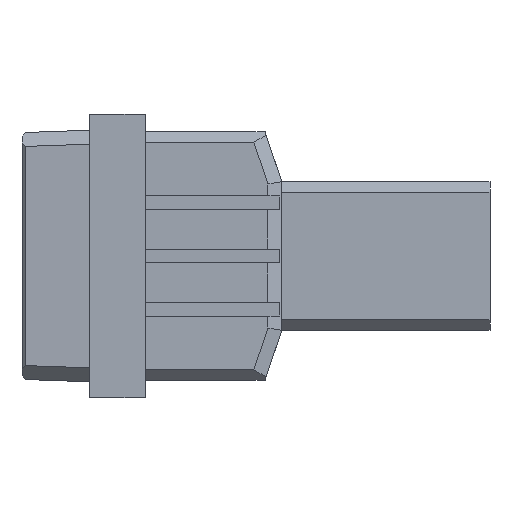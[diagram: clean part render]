
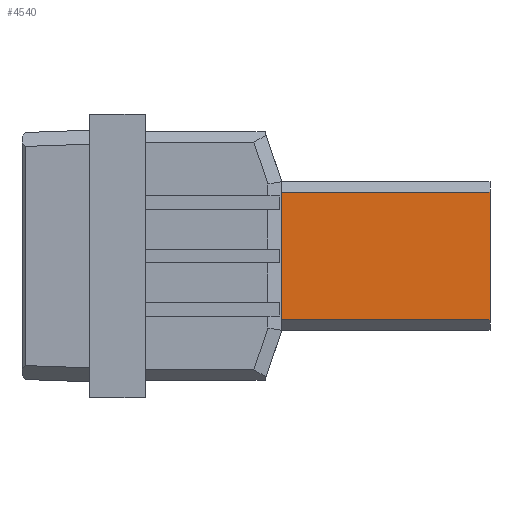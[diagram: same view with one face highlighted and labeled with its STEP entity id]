
A CAD part, left-side view. The second image highlights one B-rep face of the part: STEP entity #4540.
In plain terms, the highlighted planar face has unit normal (-1, 0, 0).
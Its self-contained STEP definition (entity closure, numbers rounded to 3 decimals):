
#70 = ORIENTED_EDGE ( 'NONE', *, *, #1038, .T. ) ;
#171 = PLANE ( 'NONE',  #969 ) ;
#219 = VECTOR ( 'NONE', #2928, 1000. ) ;
#430 = VERTEX_POINT ( 'NONE', #5026 ) ;
#644 = DIRECTION ( 'NONE',  ( 0., 0., -1. ) ) ;
#661 = LINE ( 'NONE', #1158, #219 ) ;
#859 = DIRECTION ( 'NONE',  ( 0., 1., 0. ) ) ;
#969 = AXIS2_PLACEMENT_3D ( 'NONE', #3274, #2783, #989 ) ;
#989 = DIRECTION ( 'NONE',  ( 0., 1., 0. ) ) ;
#1038 = EDGE_CURVE ( 'NONE', #430, #2054, #2506, .T. ) ;
#1138 = CARTESIAN_POINT ( 'NONE',  ( -9.568, -3.121, 19.685 ) ) ;
#1158 = CARTESIAN_POINT ( 'NONE',  ( -9.568, -18.071, 4.94 ) ) ;
#1515 = EDGE_CURVE ( 'NONE', #4836, #1864, #1977, .T. ) ;
#1630 = EDGE_CURVE ( 'NONE', #4836, #430, #4373, .T. ) ;
#1657 = CARTESIAN_POINT ( 'NONE',  ( -9.568, -18.071, 19.685 ) ) ;
#1699 = EDGE_LOOP ( 'NONE', ( #70, #5715, #2068, #5091 ) ) ;
#1864 = VERTEX_POINT ( 'NONE', #5614 ) ;
#1977 = LINE ( 'NONE', #1657, #2185 ) ;
#2054 = VERTEX_POINT ( 'NONE', #5728 ) ;
#2068 = ORIENTED_EDGE ( 'NONE', *, *, #1515, .F. ) ;
#2185 = VECTOR ( 'NONE', #3742, 1000. ) ;
#2506 = LINE ( 'NONE', #1138, #5154 ) ;
#2670 = CARTESIAN_POINT ( 'NONE',  ( -9.568, -18.071, 14.11 ) ) ;
#2783 = DIRECTION ( 'NONE',  ( 1., 0., 0. ) ) ;
#2928 = DIRECTION ( 'NONE',  ( 0., 1., 0. ) ) ;
#3274 = CARTESIAN_POINT ( 'NONE',  ( -9.568, -18.071, 19.685 ) ) ;
#3742 = DIRECTION ( 'NONE',  ( 0., 0., -1. ) ) ;
#4373 = LINE ( 'NONE', #5736, #4693 ) ;
#4540 = ADVANCED_FACE ( 'NONE', ( #5016 ), #171, .F. ) ;
#4640 = EDGE_CURVE ( 'NONE', #1864, #2054, #661, .T. ) ;
#4693 = VECTOR ( 'NONE', #859, 1000. ) ;
#4836 = VERTEX_POINT ( 'NONE', #2670 ) ;
#5016 = FACE_OUTER_BOUND ( 'NONE', #1699, .T. ) ;
#5026 = CARTESIAN_POINT ( 'NONE',  ( -9.568, -3.121, 14.11 ) ) ;
#5091 = ORIENTED_EDGE ( 'NONE', *, *, #1630, .T. ) ;
#5154 = VECTOR ( 'NONE', #644, 1000. ) ;
#5614 = CARTESIAN_POINT ( 'NONE',  ( -9.568, -18.071, 4.94 ) ) ;
#5715 = ORIENTED_EDGE ( 'NONE', *, *, #4640, .F. ) ;
#5728 = CARTESIAN_POINT ( 'NONE',  ( -9.568, -3.121, 4.94 ) ) ;
#5736 = CARTESIAN_POINT ( 'NONE',  ( -9.568, -18.071, 14.11 ) ) ;
